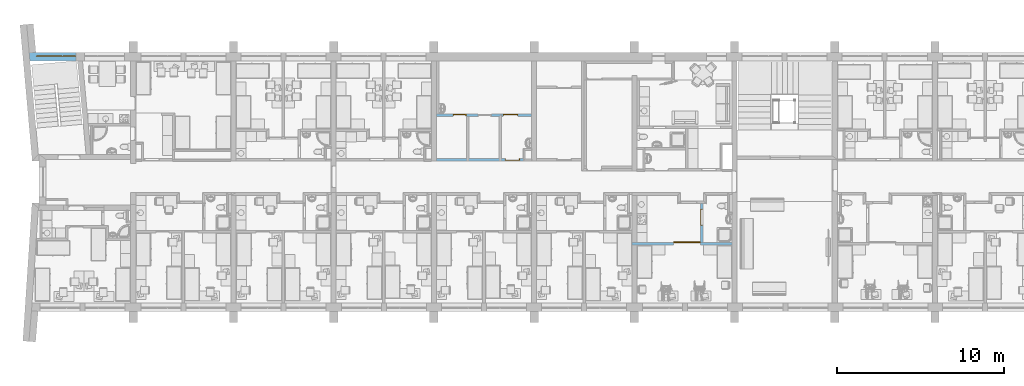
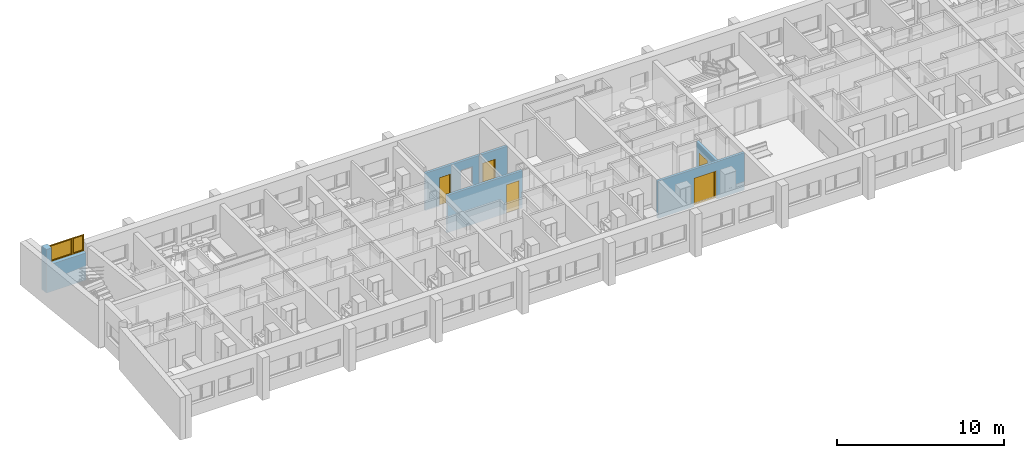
# One storey, part 37 of 172: 5 doors, 1 window, 7 openings, plus 6 elements that do not belong to this part.
"""IFC2X3 building model written with IfcOpenShell, lengths in millimetres."""

from ifc_helpers import new_model, entity, si_unit, converted_unit, money_unit, direction, frame, origin_with_axes, place, context, subcontext, project, spatial, polyline, outline, extrude, open_shell, faceted_brep, surface_model, material, material_list, layer, layer_set, layer_usage, type_object, element, fill, save


model = new_model("IFC2X3")

# Units and contexts
model_context = context("Model", 3, precision=1e-05, world=origin_with_axes(), true_north=direction((0.0, 1.0)))
body_context = subcontext(model_context, "Body", "Model", "MODEL_VIEW")
ifc_project = project(units=[si_unit("LENGTHUNIT", "METRE", prefix="MILLI"), si_unit("AREAUNIT", "SQUARE_METRE"), si_unit("VOLUMEUNIT", "CUBIC_METRE"), converted_unit("PLANEANGLEUNIT", "DEGREE", entity("IfcPlaneAngleMeasure", 0.0174532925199), si_unit("PLANEANGLEUNIT", "RADIAN"), dimensions=[0, 0, 0, 0, 0, 0, 0]), si_unit("SOLIDANGLEUNIT", "STERADIAN"), money_unit("USD"), converted_unit("TIMEUNIT", "Year", entity("IfcTimeMeasure", 31556926.0), si_unit("TIMEUNIT", "SECOND"), dimensions=[0, 0, 0, 0, 0, 0, 0]), si_unit("MASSUNIT", "GRAM"), si_unit("THERMODYNAMICTEMPERATUREUNIT", "DEGREE_CELSIUS"), si_unit("LUMINOUSINTENSITYUNIT", "LUMEN")], contexts=[model_context])

# Site, building, storey
site_placement = place(None, origin_with_axes())
site = spatial("IfcSite", under=ifc_project, at=site_placement, Name="Site", CompositionType="ELEMENT")
building_placement = place(site_placement, origin_with_axes())
building = spatial("IfcBuilding", under=site, at=building_placement, Name="Building", CompositionType="ELEMENT")
storey_placement = place(building_placement, frame((0.0, 0.0, 3200.0), z_axis=(0.0, 0.0, 1.0), x_axis=(1.0, 0.0, 0.0)))
storey = spatial("IfcBuildingStorey", under=building, at=storey_placement, Name="3KORRUS", CompositionType="ELEMENT", Elevation=3200.0)

# Wall, opening, window
ifc_material_1 = material(Name="Olemasolevad seinad tellis, uus viimistlus")
ifc_layer_1 = layer(ifc_material_1, 500.0, ventilated="UNKNOWN")
ifc_layer_set_1 = layer_set([ifc_layer_1], Name="Olemasolevad seinad tellis, uus viimistlus 500")
ifc_layer_usage_1 = layer_usage(ifc_layer_set_1, "AXIS2", "POSITIVE", -100.0)
wall_type_1 = type_object("IfcWallType", Name="Olemasolevad seinad tellis, uus viimistlus 500", PredefinedType="NOTDEFINED")
wall_1_placement = place(storey_placement, frame((-54736.5854321, -5039.6041088, 460.0), z_axis=(0.0, 0.0, 1.0), x_axis=(1.0, 0.0, 0.0)))
wall_1 = element("IfcWallStandardCase", 1, at=wall_1_placement, inside=storey, type_object=wall_type_1, material=ifc_layer_usage_1, Name="VS1", ObjectType="VS1", context=body_context, shape_type="SweptSolid", body=[
    extrude(outline(polyline([(410.611289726, -100.0), (3167.24661967, -100.0), (3167.24661967, 400.0), (365.631323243, 400.0), (410.611289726, -100.0)])), origin_with_axes(), (0.0, 0.0, 1.0), 3200.0),
])
opening_1_placement = place(wall_1_placement, frame((1967.24661967, 0.0, 2000.0), z_axis=(0.0, 0.0, 1.0), x_axis=(1.0, 0.0, 0.0)))
opening_1 = element("IfcOpeningElement", 2, at=opening_1_placement, cuts=wall_1, Name="A2", context=body_context, shape_type="SweptSolid", body=[
    extrude(outline(polyline([(-1200.0, 1200.0), (-1200.0, 0.0), (1200.0, 0.0), (1200.0, 1200.0), (-1200.0, 1200.0)])), frame((0.0, 200.0, 0.0), z_axis=(0.0, -1.0, 0.0), x_axis=(1.0, 0.0, 0.0)), (0.0, 0.0, 1.0), 800.0),
    extrude(outline(polyline([(-1200.0, 0.0), (-1200.0, -1200.0), (1200.0, -1200.0), (1200.0, 0.0), (-1200.0, 0.0)])), frame((0.0, 200.0, 0.0), z_axis=(0.0, 1.0, 0.0), x_axis=(1.0, 0.0, 0.0)), (0.0, 0.0, 1.0), 700.0),
])
ifc_material_2 = material(Name="Background")
ifc_material_list = material_list([ifc_material_2])
window_style = type_object("IfcWindowStyle", Name="Double Window 19", ConstructionType="NOTDEFINED", OperationType="DOUBLE_PANEL_VERTICAL", ParameterTakesPrecedence=False, Sizeable=False)
window_placement = place(opening_1_placement, frame((-1200.0, 0.0, 0.0), z_axis=(0.0, 0.0, 1.0), x_axis=(1.0, 0.0, 0.0)))
window = element("IfcWindow", 3, at=window_placement, inside=storey, type_object=window_style, material=ifc_material_list, Name="A2", ObjectType="A1", OverallHeight=1200.0, OverallWidth=2400.0, context=body_context, shape_type="SurfaceModel", body=[
    faceted_brep([(25.0, 200.0, 1150.0), (0.0, 200.0, 1150.0), (0.0, 150.0, 1150.0), (50.0, 150.0, 1150.0), (50.0, 175.0, 1150.0), (25.0, 175.0, 1150.0), (25.0, 200.0, 50.0), (0.0, 200.0, 50.0), (0.0, 150.0, 50.0), (50.0, 150.0, 50.0), (50.0, 175.0, 50.0), (25.0, 175.0, 50.0)], [[[0, 1, 2, 3, 4, 5]], [[6, 7, 1, 0]], [[1, 7, 8, 2]], [[2, 8, 9, 3]], [[4, 3, 9, 10]], [[10, 11, 5, 4]], [[5, 11, 6, 0]], [[11, 10, 9, 8, 7, 6]]]),
    faceted_brep([(2350.0, 175.0, 1150.0), (2350.0, 150.0, 1150.0), (2400.0, 150.0, 1150.0), (2400.0, 200.0, 1150.0), (2375.0, 200.0, 1150.0), (2375.0, 175.0, 1150.0), (2350.0, 175.0, 50.0), (2350.0, 150.0, 50.0), (2400.0, 150.0, 50.0), (2400.0, 200.0, 50.0), (2375.0, 200.0, 50.0), (2375.0, 175.0, 50.0)], [[[0, 1, 2, 3, 4, 5]], [[6, 7, 1, 0]], [[8, 2, 1, 7]], [[9, 3, 2, 8]], [[4, 3, 9, 10]], [[10, 11, 5, 4]], [[5, 11, 6, 0]], [[11, 10, 9, 8, 7, 6]]]),
    faceted_brep([(1550.0, 175.0, 1150.0), (1550.0, 150.0, 1150.0), (1650.0, 150.0, 1150.0), (1650.0, 175.0, 1150.0), (1625.0, 175.0, 1150.0), (1625.0, 200.0, 1150.0), (1575.0, 200.0, 1150.0), (1575.0, 175.0, 1150.0), (1550.0, 175.0, 50.0), (1550.0, 150.0, 50.0), (1650.0, 150.0, 50.0), (1650.0, 175.0, 50.0), (1625.0, 175.0, 50.0), (1625.0, 200.0, 50.0), (1575.0, 200.0, 50.0), (1575.0, 175.0, 50.0)], [[[0, 1, 2, 3, 4, 5, 6, 7]], [[8, 9, 1, 0]], [[10, 2, 1, 9]], [[3, 2, 10, 11]], [[11, 12, 4, 3]], [[4, 12, 13, 5]], [[6, 5, 13, 14]], [[14, 15, 7, 6]], [[7, 15, 8, 0]], [[15, 14, 13, 12, 11, 10, 9, 8]]]),
    faceted_brep([(1550.0, 175.0, 50.0), (1550.0, 150.0, 50.0), (1650.0, 150.0, 50.0), (1650.0, 175.0, 50.0), (1625.0, 175.0, 50.0), (1625.0, 200.0, 50.0), (1575.0, 200.0, 50.0), (1575.0, 175.0, 50.0), (50.0, 175.0, 50.0), (50.0, 150.0, 50.0), (0.0, 150.0, 50.0), (0.0, 150.0, 0.0), (2400.0, 150.0, 0.0), (2400.0, 150.0, 50.0), (2350.0, 150.0, 50.0), (2350.0, 175.0, 50.0), (2375.0, 175.0, 50.0), (2375.0, 175.0, 25.0), (1625.0, 175.0, 25.0), (1625.0, 200.0, 25.0), (25.0, 200.0, 25.0), (1575.0, 200.0, 25.0), (2375.0, 200.0, 25.0), (2375.0, 200.0, 50.0), (2400.0, 200.0, 50.0), (2400.0, 200.0, 0.0), (0.0, 200.0, 0.0), (0.0, 200.0, 50.0), (25.0, 200.0, 50.0), (1575.0, 175.0, 25.0), (25.0, 175.0, 25.0), (25.0, 175.0, 50.0)], [[[0, 1, 2, 3, 4, 5, 6, 7]], [[8, 9, 1, 0]], [[10, 11, 12, 13, 14, 2, 1, 9]], [[3, 2, 14, 15]], [[16, 17, 18, 4, 3, 15]], [[4, 18, 19, 5]], [[20, 21, 6, 5, 19, 22, 23, 24, 25, 26, 27, 28]], [[21, 29, 7, 6]], [[7, 29, 30, 31, 8, 0]], [[31, 28, 27, 10, 9, 8]], [[27, 26, 11, 10]], [[26, 25, 12, 11]], [[25, 24, 13, 12]], [[15, 14, 13, 24, 23, 16]], [[22, 17, 16, 23]], [[19, 18, 17, 22]], [[20, 30, 29, 21]], [[31, 30, 20, 28]]]),
    faceted_brep([(25.0, 200.0, 1150.0), (0.0, 200.0, 1150.0), (0.0, 200.0, 1200.0), (2400.0, 200.0, 1200.0), (2400.0, 200.0, 1150.0), (2375.0, 200.0, 1150.0), (2375.0, 200.0, 1175.0), (1625.0, 200.0, 1175.0), (1625.0, 200.0, 1150.0), (1575.0, 200.0, 1150.0), (1575.0, 200.0, 1175.0), (25.0, 200.0, 1175.0), (25.0, 175.0, 1150.0), (50.0, 175.0, 1150.0), (50.0, 150.0, 1150.0), (0.0, 150.0, 1150.0), (0.0, 150.0, 1200.0), (2400.0, 150.0, 1200.0), (2400.0, 150.0, 1150.0), (2375.0, 175.0, 1150.0), (2350.0, 150.0, 1150.0), (2350.0, 175.0, 1150.0), (2375.0, 175.0, 1175.0), (1625.0, 175.0, 1175.0), (1625.0, 175.0, 1150.0), (1575.0, 175.0, 1150.0), (1650.0, 175.0, 1150.0), (1650.0, 150.0, 1150.0), (1550.0, 150.0, 1150.0), (1550.0, 175.0, 1150.0), (1575.0, 175.0, 1175.0), (25.0, 175.0, 1175.0)], [[[0, 1, 2, 3, 4, 5, 6, 7, 8, 9, 10, 11]], [[12, 13, 14, 15, 1, 0]], [[2, 1, 15, 16]], [[3, 2, 16, 17]], [[4, 3, 17, 18]], [[19, 5, 4, 18, 20, 21]], [[5, 19, 22, 6]], [[6, 22, 23, 7]], [[7, 23, 24, 8]], [[25, 9, 8, 24, 26, 27, 28, 29]], [[9, 25, 30, 10]], [[10, 30, 31, 11]], [[11, 31, 12, 0]], [[29, 13, 12, 31, 30, 25]], [[29, 28, 14, 13]], [[27, 20, 18, 17, 16, 15, 14, 28]], [[21, 20, 27, 26]], [[21, 26, 24, 23, 22, 19]]]),
    faceted_brep([(75.0, 175.0, 1125.0), (75.0, 225.0, 1125.0), (25.0, 225.0, 1125.0), (25.0, 175.0, 1125.0), (75.0, 175.0, 75.0), (75.0, 225.0, 75.0), (25.0, 225.0, 75.0), (25.0, 175.0, 75.0)], [[[0, 1, 2, 3]], [[4, 5, 1, 0]], [[1, 5, 6, 2]], [[3, 2, 6, 7]], [[0, 3, 7, 4]], [[7, 6, 5, 4]]]),
    faceted_brep([(1525.0, 175.0, 75.0), (1525.0, 225.0, 75.0), (1575.0, 225.0, 75.0), (1575.0, 175.0, 75.0), (1525.0, 175.0, 1125.0), (1525.0, 225.0, 1125.0), (1575.0, 225.0, 1125.0), (1575.0, 175.0, 1125.0)], [[[0, 1, 2, 3]], [[4, 5, 1, 0]], [[1, 5, 6, 2]], [[3, 2, 6, 7]], [[0, 3, 7, 4]], [[7, 6, 5, 4]]]),
    faceted_brep([(1575.0, 175.0, 25.0), (1575.0, 225.0, 25.0), (1575.0, 225.0, 75.0), (1575.0, 175.0, 75.0), (25.0, 175.0, 25.0), (25.0, 225.0, 25.0), (25.0, 225.0, 75.0), (75.0, 225.0, 75.0), (1525.0, 225.0, 75.0), (1525.0, 175.0, 75.0), (75.0, 175.0, 75.0), (25.0, 175.0, 75.0)], [[[0, 1, 2, 3]], [[4, 5, 1, 0]], [[1, 5, 6, 7, 8, 2]], [[3, 2, 8, 9]], [[0, 3, 9, 10, 11, 4]], [[11, 6, 5, 4]], [[10, 7, 6, 11]], [[9, 8, 7, 10]]]),
    faceted_brep([(25.0, 175.0, 1175.0), (25.0, 225.0, 1175.0), (25.0, 225.0, 1125.0), (25.0, 175.0, 1125.0), (1575.0, 175.0, 1175.0), (1575.0, 225.0, 1175.0), (1575.0, 225.0, 1125.0), (1525.0, 225.0, 1125.0), (75.0, 225.0, 1125.0), (75.0, 175.0, 1125.0), (1525.0, 175.0, 1125.0), (1575.0, 175.0, 1125.0)], [[[0, 1, 2, 3]], [[4, 5, 1, 0]], [[1, 5, 6, 7, 8, 2]], [[3, 2, 8, 9]], [[0, 3, 9, 10, 11, 4]], [[11, 6, 5, 4]], [[10, 7, 6, 11]], [[9, 8, 7, 10]]]),
    surface_model("IfcShellBasedSurfaceModel", [(75.0, 190.0, 75.0), (1525.0, 190.0, 75.0), (1525.0, 190.0, 1125.0), (75.0, 190.0, 1125.0)], [open_shell([[[0, 1, 2, 3]]])]),
    surface_model("IfcShellBasedSurfaceModel", [(75.0, 210.0, 75.0), (75.0, 210.0, 1125.0), (1525.0, 210.0, 1125.0), (1525.0, 210.0, 75.0)], [open_shell([[[0, 1, 2, 3]]])]),
    faceted_brep([(1675.0, 175.0, 1125.0), (1675.0, 225.0, 1125.0), (1625.0, 225.0, 1125.0), (1625.0, 175.0, 1125.0), (1675.0, 175.0, 75.0), (1675.0, 225.0, 75.0), (1625.0, 225.0, 75.0), (1625.0, 175.0, 75.0)], [[[0, 1, 2, 3]], [[4, 5, 1, 0]], [[1, 5, 6, 2]], [[3, 2, 6, 7]], [[0, 3, 7, 4]], [[7, 6, 5, 4]]]),
    faceted_brep([(2325.0, 175.0, 75.0), (2325.0, 225.0, 75.0), (2375.0, 225.0, 75.0), (2375.0, 175.0, 75.0), (2325.0, 175.0, 1125.0), (2325.0, 225.0, 1125.0), (2375.0, 225.0, 1125.0), (2375.0, 175.0, 1125.0)], [[[0, 1, 2, 3]], [[4, 5, 1, 0]], [[1, 5, 6, 2]], [[3, 2, 6, 7]], [[0, 3, 7, 4]], [[7, 6, 5, 4]]]),
    faceted_brep([(2375.0, 175.0, 25.0), (2375.0, 225.0, 25.0), (2375.0, 225.0, 75.0), (2375.0, 175.0, 75.0), (1625.0, 175.0, 25.0), (1625.0, 225.0, 25.0), (1625.0, 225.0, 75.0), (1675.0, 225.0, 75.0), (2325.0, 225.0, 75.0), (2325.0, 175.0, 75.0), (1675.0, 175.0, 75.0), (1625.0, 175.0, 75.0)], [[[0, 1, 2, 3]], [[4, 5, 1, 0]], [[1, 5, 6, 7, 8, 2]], [[3, 2, 8, 9]], [[0, 3, 9, 10, 11, 4]], [[11, 6, 5, 4]], [[10, 7, 6, 11]], [[9, 8, 7, 10]]]),
    faceted_brep([(1625.0, 175.0, 1175.0), (1625.0, 225.0, 1175.0), (1625.0, 225.0, 1125.0), (1625.0, 175.0, 1125.0), (2375.0, 175.0, 1175.0), (2375.0, 225.0, 1175.0), (2375.0, 225.0, 1125.0), (2325.0, 225.0, 1125.0), (1675.0, 225.0, 1125.0), (1675.0, 175.0, 1125.0), (2325.0, 175.0, 1125.0), (2375.0, 175.0, 1125.0)], [[[0, 1, 2, 3]], [[4, 5, 1, 0]], [[1, 5, 6, 7, 8, 2]], [[3, 2, 8, 9]], [[0, 3, 9, 10, 11, 4]], [[11, 6, 5, 4]], [[10, 7, 6, 11]], [[9, 8, 7, 10]]]),
    surface_model("IfcShellBasedSurfaceModel", [(1675.0, 190.0, 75.0), (2325.0, 190.0, 75.0), (2325.0, 190.0, 1125.0), (1675.0, 190.0, 1125.0)], [open_shell([[[0, 1, 2, 3]]])]),
    surface_model("IfcShellBasedSurfaceModel", [(1675.0, 210.0, 75.0), (1675.0, 210.0, 1125.0), (2325.0, 210.0, 1125.0), (2325.0, 210.0, 75.0)], [open_shell([[[0, 1, 2, 3]]])]),
])
fill(opening_1, window)

# Wall, opening, door
ifc_material_3 = material(Name="UmbKipsplaat")
ifc_layer_2 = layer(ifc_material_3, 13.0, ventilated="UNKNOWN")
ifc_layer_3 = layer(ifc_material_3, 13.0, ventilated="UNKNOWN")
ifc_material_4 = material(Name="SOOJUSTUS MINERAALVILL")
ifc_layer_4 = layer(ifc_material_4, 98.0, ventilated="UNKNOWN")
ifc_layer_5 = layer(ifc_material_3, 13.0, ventilated="UNKNOWN")
ifc_layer_6 = layer(ifc_material_3, 13.0, ventilated="UNKNOWN")
ifc_layer_set_2 = layer_set([ifc_layer_2, ifc_layer_3, ifc_layer_4, ifc_layer_5, ifc_layer_6], Name="kipssein150")
ifc_layer_usage_2 = layer_usage(ifc_layer_set_2, "AXIS2", "POSITIVE", 0.0)
wall_type_2 = type_object("IfcWallType", Name="kipssein150 150", PredefinedType="NOTDEFINED")
wall_2_placement = place(storey_placement, frame((-23990.2967033, -8329.65401045, 0.0), z_axis=(0.0, 0.0, 1.0), x_axis=(-1.0, 0.0, 0.0)))
wall_2 = element("IfcWallStandardCase", 4, at=wall_2_placement, inside=storey, type_object=wall_type_2, material=ifc_layer_usage_2, Name="SS1", ObjectType="SS1", context=body_context, shape_type="SweptSolid", body=[
    extrude(outline(polyline([(300.0, 0.0), (2099.52662616, 0.0), (2099.52662616, 150.0), (300.0, 150.0), (300.0, 0.0)])), origin_with_axes(), (0.0, 0.0, 1.0), 2750.0),
])
opening_2_placement = place(wall_2_placement, frame((1559.83112198, 0.0, 0.0), z_axis=(0.0, 0.0, 1.0), x_axis=(1.0, 0.0, 0.0)))
opening_2 = element("IfcOpeningElement", 5, at=opening_2_placement, cuts=wall_2, Name="SU2-2", context=body_context, shape_type="SweptSolid", body=[
    extrude(outline(polyline([(-450.0, -2100.0), (450.0, -2100.0), (450.0, 0.0), (-450.0, 0.0), (-450.0, -2100.0)])), frame((0.0, 150.0, 0.0), z_axis=(0.0, -1.0, 0.0), x_axis=(-1.0, 0.0, 0.0)), (0.0, 0.0, 1.0), 450.0),
])
door_style_1 = type_object("IfcDoorStyle", Name="Door 19", ConstructionType="NOTDEFINED", OperationType="SINGLE_SWING_RIGHT", ParameterTakesPrecedence=False, Sizeable=False)
door_1_placement = place(opening_2_placement, frame((450.0, 0.0, 0.0), z_axis=(0.0, 0.0, 1.0), x_axis=(-1.0, 0.0, 0.0)))
door_1 = element("IfcDoor", 6, at=door_1_placement, inside=storey, type_object=door_style_1, material=ifc_material_list, Name="SU2-2", ObjectType="Abiruumi uks", OverallHeight=2100.0, OverallWidth=900.0, context=body_context, shape_type="Brep", body=[
    faceted_brep([(40.0, -40.0, 0.0), (40.0, -40.0, 2060.0), (40.0, -115.0, 2060.0), (40.0, -115.0, 0.0), (28.0, -40.0, 2060.0), (28.0, -40.0, 0.0), (28.0, 0.0, 2060.0), (0.0, 0.0, 2060.0), (0.0, -115.0, 2060.0), (0.0, -115.0, 0.0), (0.0, 0.0, 0.0), (28.0, 0.0, 0.0)], [[[0, 1, 2, 3]], [[4, 1, 0, 5]], [[4, 6, 7, 8, 2, 1]], [[2, 8, 9, 3]], [[5, 0, 3, 9, 10, 11]], [[6, 4, 5, 11]], [[6, 11, 10, 7]], [[9, 8, 7, 10]]]),
    faceted_brep([(872.0, -40.0, 2060.0), (860.0, -40.0, 2060.0), (860.0, -115.0, 2060.0), (900.0, -115.0, 2060.0), (900.0, 0.0, 2060.0), (872.0, 0.0, 2060.0), (872.0, -40.0, 0.0), (860.0, -40.0, 0.0), (860.0, -115.0, 0.0), (900.0, -115.0, 0.0), (900.0, 0.0, 0.0), (872.0, 0.0, 0.0)], [[[0, 1, 2, 3, 4, 5]], [[1, 0, 6, 7]], [[1, 7, 8, 2]], [[2, 8, 9, 3]], [[3, 9, 10, 4]], [[11, 5, 4, 10]], [[0, 5, 11, 6]], [[6, 11, 10, 9, 8, 7]]]),
    faceted_brep([(28.0, 0.0, 2072.0), (28.0, 0.0, 2060.0), (0.0, 0.0, 2060.0), (0.0, 0.0, 2100.0), (900.0, 0.0, 2100.0), (900.0, 0.0, 2060.0), (872.0, 0.0, 2060.0), (872.0, 0.0, 2072.0), (28.0, -40.0, 2072.0), (28.0, -40.0, 2060.0), (40.0, -40.0, 2060.0), (40.0, -115.0, 2060.0), (0.0, -115.0, 2060.0), (0.0, -115.0, 2100.0), (900.0, -115.0, 2100.0), (900.0, -115.0, 2060.0), (872.0, -40.0, 2060.0), (860.0, -115.0, 2060.0), (860.0, -40.0, 2060.0), (872.0, -40.0, 2072.0)], [[[0, 1, 2, 3, 4, 5, 6, 7]], [[1, 0, 8, 9]], [[9, 10, 11, 12, 2, 1]], [[12, 13, 3, 2]], [[13, 14, 4, 3]], [[14, 15, 5, 4]], [[16, 6, 5, 15, 17, 18]], [[7, 6, 16, 19]], [[0, 7, 19, 8]], [[16, 18, 10, 9, 8, 19]], [[10, 18, 17, 11]], [[15, 14, 13, 12, 11, 17]]]),
    faceted_brep([(872.0, 0.0, 0.0), (872.0, -40.0, 0.0), (28.0, -40.0, 0.0), (28.0, 0.0, 0.0), (872.0, 0.0, 2072.0), (872.0, -40.0, 2072.0), (28.0, -40.0, 2072.0), (28.0, 0.0, 2072.0)], [[[0, 1, 2, 3]], [[4, 5, 1, 0]], [[1, 5, 6, 2]], [[3, 2, 6, 7]], [[0, 3, 7, 4]], [[7, 6, 5, 4]]]),
])
fill(opening_2, door_1)

ifc_layer_usage_3 = layer_usage(ifc_layer_set_2, "AXIS2", "POSITIVE", 0.0)
wall_3_placement = place(storey_placement, frame((-29990.2967033, -11139.2398994, 0.0), z_axis=(0.0, 0.0, 1.0), x_axis=(1.0, 0.0, 0.0)))
wall_3 = element("IfcWallStandardCase", 7, at=wall_3_placement, inside=storey, type_object=wall_type_2, material=ifc_layer_usage_3, Name="SS1", ObjectType="SS1", context=body_context, shape_type="SweptSolid", body=[
    extrude(outline(polyline([(0.0, 0.0), (5200.0, 0.0), (5200.0, 150.0), (0.0, 150.0), (0.0, 0.0)])), origin_with_axes(), (0.0, 0.0, 1.0), 2750.0),
])
opening_3_placement = place(wall_3_placement, frame((4550.15586262, 0.0, 0.0), z_axis=(0.0, 0.0, 1.0), x_axis=(1.0, 0.0, 0.0)))
opening_3 = element("IfcOpeningElement", 8, at=opening_3_placement, cuts=wall_3, Name="SU2-6", context=body_context, shape_type="SweptSolid", body=[
    extrude(outline(polyline([(-450.0, 0.0), (450.0, 0.0), (450.0, 2100.0), (-450.0, 2100.0), (-450.0, 0.0)])), frame((0.0, -150.0, 0.0), z_axis=(0.0, -1.0, 0.0), x_axis=(1.0, 0.0, 0.0)), (0.0, 0.0, -1.0), 450.0),
])
door_style_2 = type_object("IfcDoorStyle", Name="Door 19", ConstructionType="NOTDEFINED", OperationType="SINGLE_SWING_LEFT", ParameterTakesPrecedence=False, Sizeable=False)
door_2_placement = place(opening_3_placement, frame((450.0, 0.0, 0.0), z_axis=(0.0, 0.0, 1.0), x_axis=(-1.0, 0.0, 0.0)))
door_2 = element("IfcDoor", 9, at=door_2_placement, inside=storey, type_object=door_style_2, material=ifc_material_list, Name="SU2-6", ObjectType="Korteri välisuks", OverallHeight=2100.0, OverallWidth=900.0, context=body_context, shape_type="Brep", body=[
    faceted_brep([(860.0, -75.0, 0.0), (860.0, -150.0, 0.0), (860.0, -150.0, 2060.0), (860.0, -75.0, 2060.0), (872.0, -75.0, 0.0), (872.0, -35.0, 0.0), (900.0, -35.0, 0.0), (900.0, -150.0, 0.0), (900.0, -150.0, 2060.0), (872.0, -75.0, 2060.0), (900.0, -35.0, 2060.0), (872.0, -35.0, 2060.0)], [[[0, 1, 2, 3]], [[4, 5, 6, 7, 1, 0]], [[2, 1, 7, 8]], [[9, 3, 2, 8, 10, 11]], [[9, 4, 0, 3]], [[11, 5, 4, 9]], [[11, 10, 6, 5]], [[7, 6, 10, 8]]]),
    faceted_brep([(28.0, -75.0, 2060.0), (28.0, -35.0, 2060.0), (0.0, -35.0, 2060.0), (0.0, -150.0, 2060.0), (40.0, -150.0, 2060.0), (40.0, -75.0, 2060.0), (28.0, -75.0, 0.0), (28.0, -35.0, 0.0), (0.0, -35.0, 0.0), (0.0, -150.0, 0.0), (40.0, -150.0, 0.0), (40.0, -75.0, 0.0)], [[[0, 1, 2, 3, 4, 5]], [[0, 6, 7, 1]], [[7, 8, 2, 1]], [[3, 2, 8, 9]], [[4, 3, 9, 10]], [[5, 4, 10, 11]], [[5, 11, 6, 0]], [[6, 11, 10, 9, 8, 7]]]),
    faceted_brep([(872.0, -35.0, 2072.0), (28.0, -35.0, 2072.0), (28.0, -35.0, 2060.0), (0.0, -35.0, 2060.0), (0.0, -35.0, 2100.0), (900.0, -35.0, 2100.0), (900.0, -35.0, 2060.0), (872.0, -35.0, 2060.0), (872.0, -75.0, 2072.0), (28.0, -75.0, 2072.0), (28.0, -75.0, 2060.0), (40.0, -75.0, 2060.0), (40.0, -150.0, 2060.0), (0.0, -150.0, 2060.0), (0.0, -150.0, 2100.0), (900.0, -150.0, 2100.0), (900.0, -150.0, 2060.0), (872.0, -75.0, 2060.0), (860.0, -150.0, 2060.0), (860.0, -75.0, 2060.0)], [[[0, 1, 2, 3, 4, 5, 6, 7]], [[0, 8, 9, 1]], [[1, 9, 10, 2]], [[10, 11, 12, 13, 3, 2]], [[14, 4, 3, 13]], [[15, 5, 4, 14]], [[16, 6, 5, 15]], [[17, 7, 6, 16, 18, 19]], [[7, 17, 8, 0]], [[10, 9, 8, 17, 19, 11]], [[19, 18, 12, 11]], [[13, 12, 18, 16, 15, 14]]]),
    faceted_brep([(28.0, -35.0, 0.0), (872.0, -35.0, 0.0), (872.0, -75.0, 0.0), (28.0, -75.0, 0.0), (28.0, -35.0, 2072.0), (872.0, -35.0, 2072.0), (872.0, -75.0, 2072.0), (28.0, -75.0, 2072.0)], [[[0, 1, 2, 3]], [[0, 4, 5, 1]], [[1, 5, 6, 2]], [[3, 2, 6, 7]], [[4, 0, 3, 7]], [[5, 4, 7, 6]]]),
])
fill(opening_3, door_2)

# Wall, openings, door
ifc_layer_usage_4 = layer_usage(ifc_layer_set_2, "AXIS2", "POSITIVE", 0.0)
wall_4_placement = place(storey_placement, frame((-29990.2967033, -8479.65404691, 0.0), z_axis=(0.0, 0.0, 1.0), x_axis=(1.0, 0.0, 0.0)))
wall_4 = element("IfcWallStandardCase", 10, at=wall_4_placement, inside=storey, type_object=wall_type_2, material=ifc_layer_usage_4, Name="SS1", ObjectType="SS1", context=body_context, shape_type="SweptSolid", body=[
    extrude(outline(polyline([(0.0, 0.0), (3750.4733738, 0.0), (3900.4733738, 150.0), (0.0, 150.0), (0.0, 0.0)])), origin_with_axes(), (0.0, 0.0, 1.0), 2750.0),
])
opening_4_placement = place(wall_4_placement, frame((2890.50362562, 0.0, 0.0), z_axis=(0.0, 0.0, 1.0), x_axis=(1.0, 0.0, 0.0)))
element("IfcOpeningElement", 11, at=opening_4_placement, cuts=wall_4, Name="SU3-1", context=body_context, shape_type="SweptSolid", body=[
    extrude(outline(polyline([(-400.0, 0.0), (400.0, 0.0), (400.0, 2100.0), (-400.0, 2100.0), (-400.0, 0.0)])), frame((0.0, 150.0, 0.0), z_axis=(0.0, 1.0, 0.0), x_axis=(-1.0, 0.0, 0.0)), (0.0, 0.0, -1.0), 450.0),
])
opening_5_placement = place(wall_4_placement, frame((1390.52700258, 0.0, 0.0), z_axis=(0.0, 0.0, 1.0), x_axis=(1.0, 0.0, 0.0)))
opening_5 = element("IfcOpeningElement", 12, at=opening_5_placement, cuts=wall_4, Name="SU3-1", context=body_context, shape_type="SweptSolid", body=[
    extrude(outline(polyline([(-400.0, -2100.0), (400.0, -2100.0), (400.0, 0.0), (-400.0, 0.0), (-400.0, -2100.0)])), frame((0.0, -150.0, 0.0), z_axis=(0.0, -1.0, 0.0), x_axis=(-1.0, 0.0, 0.0)), (0.0, 0.0, -1.0), 450.0),
])
door_style_3 = type_object("IfcDoorStyle", Name="Door 19", ConstructionType="NOTDEFINED", OperationType="SINGLE_SWING_LEFT", ParameterTakesPrecedence=False, Sizeable=False)
door_3_placement = place(opening_5_placement, frame((-400.0, 0.0, 0.0), z_axis=(0.0, 0.0, 1.0), x_axis=(1.0, 0.0, 0.0)))
door_3 = element("IfcDoor", 13, at=door_3_placement, inside=storey, type_object=door_style_3, material=ifc_material_list, Name="SU3-1", ObjectType="Abiruumi uks", OverallHeight=2100.0, OverallWidth=800.0, context=body_context, shape_type="Brep", body=[
    faceted_brep([(760.0, 110.0, 0.0), (760.0, 35.0, 0.0), (760.0, 35.0, 2060.0), (760.0, 110.0, 2060.0), (772.0, 110.0, 0.0), (772.0, 150.0, 0.0), (800.0, 150.0, 0.0), (800.0, 35.0, 0.0), (800.0, 35.0, 2060.0), (772.0, 110.0, 2060.0), (800.0, 150.0, 2060.0), (772.0, 150.0, 2060.0)], [[[0, 1, 2, 3]], [[4, 5, 6, 7, 1, 0]], [[2, 1, 7, 8]], [[9, 3, 2, 8, 10, 11]], [[9, 4, 0, 3]], [[11, 5, 4, 9]], [[11, 10, 6, 5]], [[7, 6, 10, 8]]]),
    faceted_brep([(28.0, 110.0, 2060.0), (28.0, 150.0, 2060.0), (0.0, 150.0, 2060.0), (0.0, 35.0, 2060.0), (40.0, 35.0, 2060.0), (40.0, 110.0, 2060.0), (28.0, 110.0, 0.0), (28.0, 150.0, 0.0), (0.0, 150.0, 0.0), (0.0, 35.0, 0.0), (40.0, 35.0, 0.0), (40.0, 110.0, 0.0)], [[[0, 1, 2, 3, 4, 5]], [[0, 6, 7, 1]], [[7, 8, 2, 1]], [[3, 2, 8, 9]], [[4, 3, 9, 10]], [[5, 4, 10, 11]], [[5, 11, 6, 0]], [[6, 11, 10, 9, 8, 7]]]),
    faceted_brep([(772.0, 150.0, 2072.0), (28.0, 150.0, 2072.0), (28.0, 150.0, 2060.0), (0.0, 150.0, 2060.0), (0.0, 150.0, 2100.0), (800.0, 150.0, 2100.0), (800.0, 150.0, 2060.0), (772.0, 150.0, 2060.0), (772.0, 110.0, 2072.0), (28.0, 110.0, 2072.0), (28.0, 110.0, 2060.0), (40.0, 110.0, 2060.0), (40.0, 35.0, 2060.0), (0.0, 35.0, 2060.0), (0.0, 35.0, 2100.0), (800.0, 35.0, 2100.0), (800.0, 35.0, 2060.0), (772.0, 110.0, 2060.0), (760.0, 35.0, 2060.0), (760.0, 110.0, 2060.0)], [[[0, 1, 2, 3, 4, 5, 6, 7]], [[0, 8, 9, 1]], [[1, 9, 10, 2]], [[10, 11, 12, 13, 3, 2]], [[14, 4, 3, 13]], [[15, 5, 4, 14]], [[16, 6, 5, 15]], [[17, 7, 6, 16, 18, 19]], [[7, 17, 8, 0]], [[10, 9, 8, 17, 19, 11]], [[19, 18, 12, 11]], [[13, 12, 18, 16, 15, 14]]]),
    faceted_brep([(28.0, 150.0, 0.0), (772.0, 150.0, 0.0), (772.0, 110.0, 0.0), (28.0, 110.0, 0.0), (28.0, 150.0, 2072.0), (772.0, 150.0, 2072.0), (772.0, 110.0, 2072.0), (28.0, 110.0, 2072.0)], [[[0, 1, 2, 3]], [[0, 4, 5, 1]], [[1, 5, 6, 2]], [[3, 2, 6, 7]], [[4, 0, 3, 7]], [[5, 4, 7, 6]]]),
])
fill(opening_5, door_3)

# Wall, opening, door
ifc_layer_usage_5 = layer_usage(ifc_layer_set_2, "AXIS2", "POSITIVE", -150.0)
wall_5_placement = place(storey_placement, frame((-14187.2404586, -16029.739502, 0.0), z_axis=(0.0, 0.0, 1.0), x_axis=(0.0, 1.0, 0.0)))
wall_5 = element("IfcWallStandardCase", 14, at=wall_5_placement, inside=storey, type_object=wall_type_2, material=ifc_layer_usage_5, Name="SS1", ObjectType="SS1", context=body_context, shape_type="SweptSolid", body=[
    extrude(outline(polyline([(0.0037099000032, -150.0), (2340.2870937, -150.0), (2340.2870937, 0.0), (0.0037099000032, 0.0), (0.0037099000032, -150.0)])), origin_with_axes(), (0.0, 0.0, 1.0), 2750.0),
])
opening_6_placement = place(wall_5_placement, frame((1525.08151152, 0.0, 0.0), z_axis=(0.0, 0.0, 1.0), x_axis=(1.0, 0.0, 0.0)))
opening_6 = element("IfcOpeningElement", 15, at=opening_6_placement, cuts=wall_5, Name="SU1-2", context=body_context, shape_type="SweptSolid", body=[
    extrude(outline(polyline([(-500.0, -2100.0), (500.0, -2100.0), (500.0, 0.0), (-500.0, 0.0), (-500.0, -2100.0)])), frame((0.0, -150.0, 0.0), z_axis=(0.0, 1.0, 0.0), x_axis=(1.0, 0.0, 0.0)), (0.0, 0.0, 1.0), 450.0),
])
door_style_4 = type_object("IfcDoorStyle", Name="Door 19", ConstructionType="NOTDEFINED", OperationType="SINGLE_SWING_RIGHT", ParameterTakesPrecedence=False, Sizeable=False)
door_4_placement = place(opening_6_placement, frame((-500.0, 0.0, 0.0), z_axis=(0.0, 0.0, 1.0), x_axis=(1.0, 0.0, 0.0)))
door_4 = element("IfcDoor", 16, at=door_4_placement, inside=storey, type_object=door_style_4, material=ifc_material_list, Name="SU1-2", ObjectType="WC-uks", OverallHeight=2100.0, OverallWidth=1000.0, context=body_context, shape_type="Brep", body=[
    faceted_brep([(40.0, -40.0, 0.0), (40.0, -40.0, 2060.0), (40.0, -115.0, 2060.0), (40.0, -115.0, 0.0), (28.0, -40.0, 2060.0), (28.0, -40.0, 0.0), (28.0, 0.0, 2060.0), (0.0, 0.0, 2060.0), (0.0, -115.0, 2060.0), (0.0, -115.0, 0.0), (0.0, 0.0, 0.0), (28.0, 0.0, 0.0)], [[[0, 1, 2, 3]], [[4, 1, 0, 5]], [[4, 6, 7, 8, 2, 1]], [[2, 8, 9, 3]], [[5, 0, 3, 9, 10, 11]], [[6, 4, 5, 11]], [[6, 11, 10, 7]], [[9, 8, 7, 10]]]),
    faceted_brep([(972.0, -40.0, 2060.0), (960.0, -40.0, 2060.0), (960.0, -115.0, 2060.0), (1000.0, -115.0, 2060.0), (1000.0, 0.0, 2060.0), (972.0, 0.0, 2060.0), (972.0, -40.0, 0.0), (960.0, -40.0, 0.0), (960.0, -115.0, 0.0), (1000.0, -115.0, 0.0), (1000.0, 0.0, 0.0), (972.0, 0.0, 0.0)], [[[0, 1, 2, 3, 4, 5]], [[1, 0, 6, 7]], [[1, 7, 8, 2]], [[2, 8, 9, 3]], [[3, 9, 10, 4]], [[11, 5, 4, 10]], [[0, 5, 11, 6]], [[6, 11, 10, 9, 8, 7]]]),
    faceted_brep([(28.0, 0.0, 2072.0), (28.0, 0.0, 2060.0), (0.0, 0.0, 2060.0), (0.0, 0.0, 2100.0), (1000.0, 0.0, 2100.0), (1000.0, 0.0, 2060.0), (972.0, 0.0, 2060.0), (972.0, 0.0, 2072.0), (28.0, -40.0, 2072.0), (28.0, -40.0, 2060.0), (40.0, -40.0, 2060.0), (40.0, -115.0, 2060.0), (0.0, -115.0, 2060.0), (0.0, -115.0, 2100.0), (1000.0, -115.0, 2100.0), (1000.0, -115.0, 2060.0), (972.0, -40.0, 2060.0), (960.0, -115.0, 2060.0), (960.0, -40.0, 2060.0), (972.0, -40.0, 2072.0)], [[[0, 1, 2, 3, 4, 5, 6, 7]], [[1, 0, 8, 9]], [[9, 10, 11, 12, 2, 1]], [[12, 13, 3, 2]], [[13, 14, 4, 3]], [[14, 15, 5, 4]], [[16, 6, 5, 15, 17, 18]], [[7, 6, 16, 19]], [[0, 7, 19, 8]], [[16, 18, 10, 9, 8, 19]], [[10, 18, 17, 11]], [[15, 14, 13, 12, 11, 17]]]),
    faceted_brep([(972.0, 0.0, 0.0), (972.0, -40.0, 0.0), (28.0, -40.0, 0.0), (28.0, 0.0, 0.0), (972.0, 0.0, 2072.0), (972.0, -40.0, 2072.0), (28.0, -40.0, 2072.0), (28.0, 0.0, 2072.0)], [[[0, 1, 2, 3]], [[4, 5, 1, 0]], [[1, 5, 6, 2]], [[3, 2, 6, 7]], [[0, 3, 7, 4]], [[7, 6, 5, 4]]]),
])
fill(opening_6, door_4)

ifc_layer_usage_6 = layer_usage(ifc_layer_set_2, "AXIS2", "POSITIVE", -150.0)
wall_6_placement = place(storey_placement, frame((-18290.2967033, -16029.7357921, 0.0), z_axis=(0.0, 0.0, 1.0), x_axis=(1.0, 0.0, 0.0)))
wall_6 = element("IfcWallStandardCase", 17, at=wall_6_placement, inside=storey, type_object=wall_type_2, material=ifc_layer_usage_6, Name="SS1", ObjectType="SS1", context=body_context, shape_type="SweptSolid", body=[
    extrude(outline(polyline([(0.0, -150.0), (6000.0, -150.0), (6000.0, 0.0), (0.0, 0.0), (0.0, -150.0)])), origin_with_axes(), (0.0, 0.0, 1.0), 2750.0),
])
opening_7_placement = place(wall_6_placement, frame((3298.49879352, 0.0, 0.0), z_axis=(0.0, 0.0, 1.0), x_axis=(1.0, 0.0, 0.0)))
opening_7 = element("IfcOpeningElement", 18, at=opening_7_placement, cuts=wall_6, Name="SU6-2", context=body_context, shape_type="SweptSolid", body=[
    extrude(outline(polyline([(-800.0, 0.0), (800.0, 0.0), (800.0, 2100.0), (-800.0, 2100.0), (-800.0, 0.0)])), frame((0.0, 150.0, 0.0), z_axis=(0.0, 1.0, 0.0), x_axis=(-1.0, 0.0, 0.0)), (0.0, 0.0, -1.0), 450.0),
])
door_style_5 = type_object("IfcDoorStyle", Name="Exterior Sliding Door 19", ConstructionType="NOTDEFINED", OperationType="SLIDING_TO_LEFT", ParameterTakesPrecedence=False, Sizeable=False)
door_5_placement = place(opening_7_placement, frame((-800.0, 0.0, 0.0), z_axis=(0.0, 0.0, 1.0), x_axis=(1.0, 0.0, 0.0)))
door_5 = element("IfcDoor", 19, at=door_5_placement, inside=storey, type_object=door_style_5, material=ifc_material_list, Name="SU6-2", ObjectType="Toa uks", OverallHeight=2100.0, OverallWidth=1600.0, context=body_context, shape_type="SurfaceModel", body=[
    faceted_brep([(0.0, 45.0, 100.0), (100.0, 45.0, 100.0), (100.0, 5.0, 100.0), (0.0, 5.0, 100.0), (0.0, 45.0, 2000.0), (100.0, 45.0, 2000.0), (100.0, 5.0, 2000.0), (0.0, 5.0, 2000.0)], [[[0, 1, 2, 3]], [[0, 4, 5, 1]], [[1, 5, 6, 2]], [[3, 2, 6, 7]], [[4, 0, 3, 7]], [[5, 4, 7, 6]]]),
    faceted_brep([(1600.0, 45.0, 100.0), (1600.0, 45.0, 2000.0), (1600.0, 5.0, 2000.0), (1600.0, 5.0, 100.0), (1500.0, 45.0, 100.0), (1500.0, 45.0, 2000.0), (1500.0, 5.0, 2000.0), (1500.0, 5.0, 100.0)], [[[0, 1, 2, 3]], [[0, 4, 5, 1]], [[1, 5, 6, 2]], [[3, 2, 6, 7]], [[4, 0, 3, 7]], [[5, 4, 7, 6]]]),
    faceted_brep([(0.0, 45.0, 0.0), (1600.0, 45.0, 0.0), (1600.0, 5.0, 0.0), (0.0, 5.0, 0.0), (0.0, 45.0, 100.0), (100.0, 45.0, 100.0), (1500.0, 45.0, 100.0), (1600.0, 45.0, 100.0), (1600.0, 5.0, 100.0), (1500.0, 5.0, 100.0), (100.0, 5.0, 100.0), (0.0, 5.0, 100.0)], [[[0, 1, 2, 3]], [[0, 4, 5, 6, 7, 1]], [[1, 7, 8, 2]], [[3, 2, 8, 9, 10, 11]], [[4, 0, 3, 11]], [[5, 4, 11, 10]], [[6, 5, 10, 9]], [[7, 6, 9, 8]]]),
    faceted_brep([(0.0, 45.0, 2100.0), (0.0, 45.0, 2000.0), (0.0, 5.0, 2000.0), (0.0, 5.0, 2100.0), (1600.0, 45.0, 2100.0), (1600.0, 45.0, 2000.0), (1500.0, 45.0, 2000.0), (100.0, 45.0, 2000.0), (100.0, 5.0, 2000.0), (1500.0, 5.0, 2000.0), (1600.0, 5.0, 2000.0), (1600.0, 5.0, 2100.0)], [[[0, 1, 2, 3]], [[0, 4, 5, 6, 7, 1]], [[1, 7, 8, 2]], [[3, 2, 8, 9, 10, 11]], [[4, 0, 3, 11]], [[5, 4, 11, 10]], [[6, 5, 10, 9]], [[7, 6, 9, 8]]]),
    surface_model("IfcShellBasedSurfaceModel", [(100.0, 31.0, 100.0), (100.0, 31.0, 2000.0), (1500.0, 31.0, 2000.0), (1500.0, 31.0, 100.0)], [open_shell([[[0, 1, 2, 3]]])]),
    surface_model("IfcShellBasedSurfaceModel", [(100.0, 19.0, 100.0), (1500.0, 19.0, 100.0), (1500.0, 19.0, 2000.0), (100.0, 19.0, 2000.0)], [open_shell([[[0, 1, 2, 3]]])]),
])
fill(opening_7, door_5)

save(model, "model.ifc")
